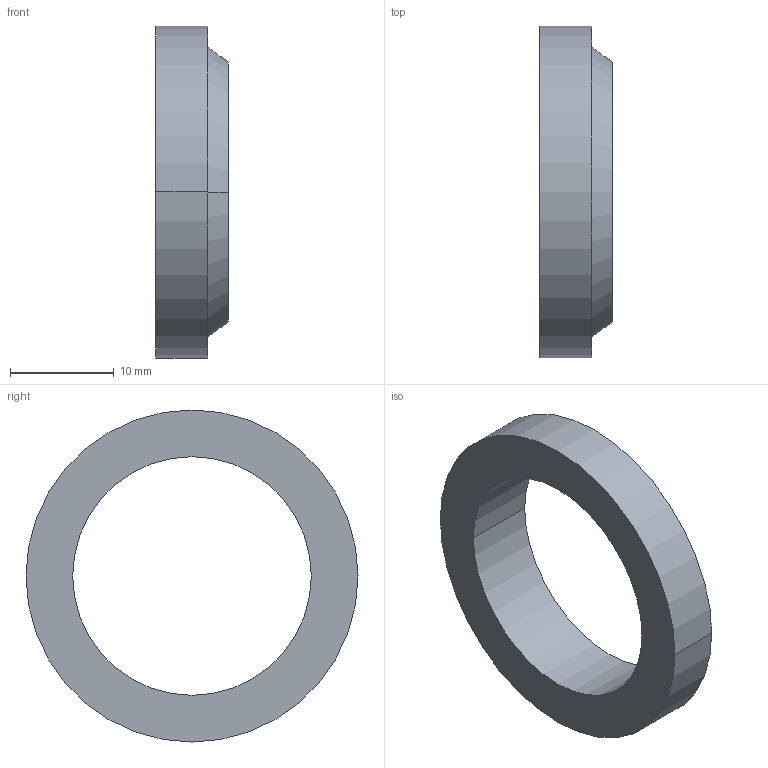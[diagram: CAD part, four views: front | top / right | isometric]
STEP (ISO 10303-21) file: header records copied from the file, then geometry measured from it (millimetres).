
FILE_DESCRIPTION (( 'STEP AP214' ), '1' );
FILE_NAME ('Joint racleur.STEP', '2005-04-08T10:02:03', ( 'frantz' ), ( '' ), 'SwSTEP 2.0', 'SolidWorks 2004104', '' );
FILE_SCHEMA (( 'AUTOMOTIVE_DESIGN' ));
Length unit declared in the file: centimetre
Products named in the file (1): Joint racleur
Bounding box: 7 x 32 x 32 mm (x, y, z)
Volume: 2217.2 mm3; surface area: 1869.2 mm2
Topology: 1 solids, 1 shells, 9 faces, 18 edges, 12 vertices
Faces by surface type: cylinder 4, plane 3, cone 2
Entity records: 271 total; most frequent: DIRECTION 50, CARTESIAN_POINT 40, ORIENTED_EDGE 36, AXIS2_PLACEMENT_3D 22, EDGE_CURVE 18, VERTEX_POINT 12, EDGE_LOOP 12, CIRCLE 12
